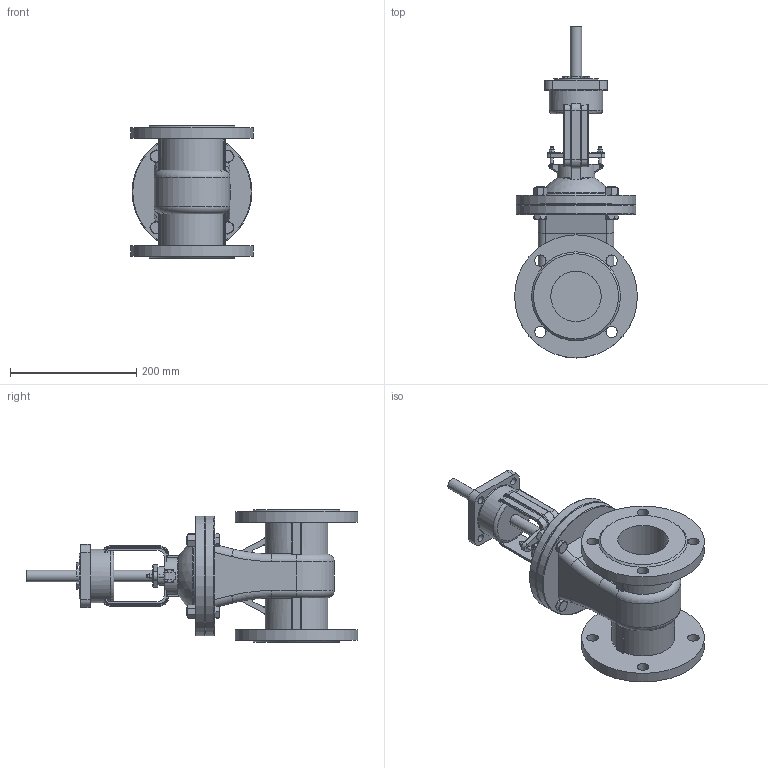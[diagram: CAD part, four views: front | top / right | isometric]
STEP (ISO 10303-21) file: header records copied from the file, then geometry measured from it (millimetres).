
FILE_DESCRIPTION(('STEP AP242'), '1');
FILE_NAME('GVWR2121M-2W-F-ÎÑÒ Çàäâèæêà êëèíîâàÿ ñ âûäâèæíûì øòîêîì Äó80 Ðó16', '', ('UNSPECIFIED'), ('UNSPECIFIED'), 'C3D Converter', 'C3D Toolkit', '');
FILE_SCHEMA(('AP242_MANAGED_MODEL_BASED_3D_ENGINEERING_MIM_LF { 1 0 10303 442 1 1 4 }'));
Length unit declared in the file: millimetre
Products named in the file (1): GVWR2121M-2W-F-ОСТ
Bounding box: 195 x 526.5 x 210 mm (x, y, z)
Volume: 4320562.3 mm3; surface area: 453554.7 mm2
Topology: 1 solids, 1 shells, 639 faces, 1590 edges, 976 vertices
Faces by surface type: plane 294, cylinder 157, cone 108, torus 50, bspline 29, sphere 1
Full cylindrical faces by diameter (mm): 3 x3, 5 x4, 8 x2, 12 x12, 18 x10, 20 x1, 30 x1, 32 x1, 50 x1, 52 x1, 70 x1, 80 x2, 84.405 x1, 110 x2, 190 x2, 195 x2
Entity records: 36114 total; most frequent: CARTESIAN_POINT 16393, ORIENTED_EDGE 3050, DIRECTION 2862, EDGE_CURVE 1525, AXIS2_PLACEMENT_3D 1120, VERTEX_POINT 974, EDGE_LOOP 786, FACE_BOUND 693
